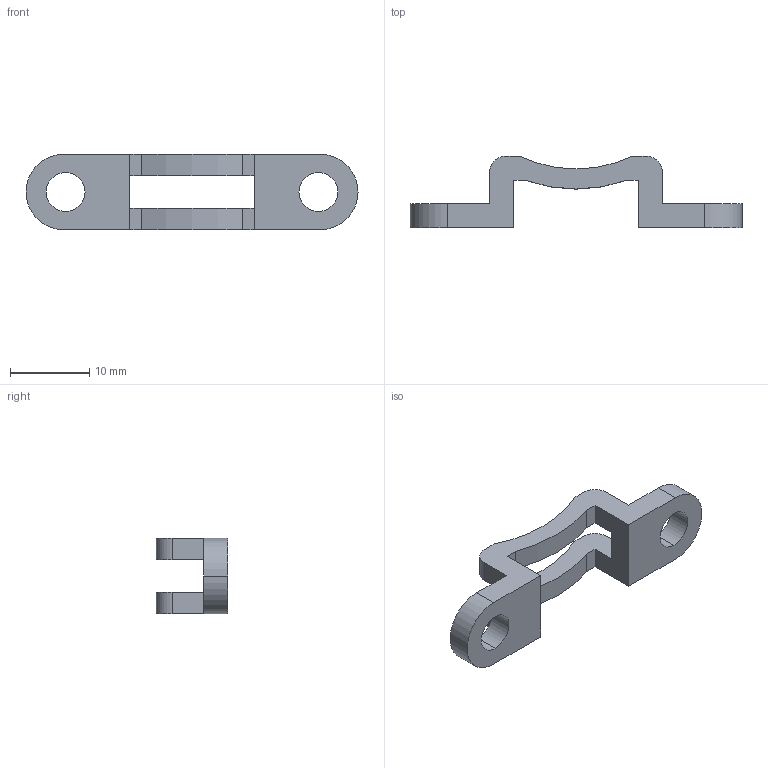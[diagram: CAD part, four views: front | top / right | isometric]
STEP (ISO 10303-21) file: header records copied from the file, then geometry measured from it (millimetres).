
FILE_DESCRIPTION (( 'STEP AP214' ), '1' );
FILE_NAME ('2072_V01_REF_FEMALE_AR_CLIP.STEP', '2025-10-14T14:25:38', ( '' ), ( '' ), 'SwSTEP 2.0', 'SolidWorks 2025', '' );
FILE_SCHEMA (( 'AUTOMOTIVE_DESIGN' ));
Length unit declared in the file: inch
Products named in the file (1): 2072_V01_REF_FEMALE_AR_CLIP
Bounding box: 42.01 x 9.04 x 9.53 mm (x, y, z)
Volume: 1006.2 mm3; surface area: 1302 mm2
Topology: 1 solids, 1 shells, 38 faces, 114 edges, 76 vertices
Faces by surface type: plane 22, cylinder 16
Entity records: 1329 total; most frequent: CARTESIAN_POINT 229, ORIENTED_EDGE 228, DIRECTION 224, EDGE_CURVE 114, LINE 82, VECTOR 82, VERTEX_POINT 76, AXIS2_PLACEMENT_3D 71
